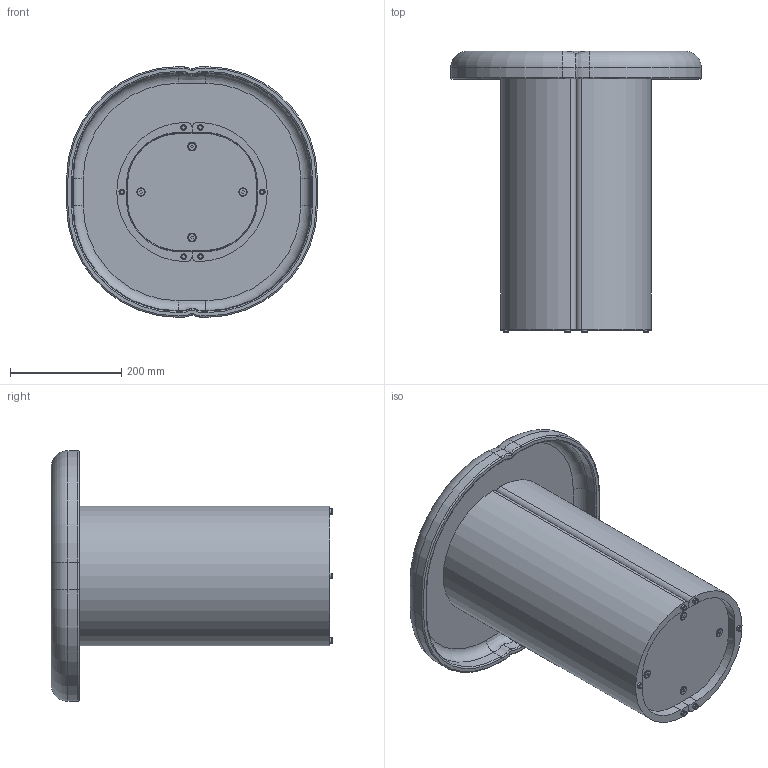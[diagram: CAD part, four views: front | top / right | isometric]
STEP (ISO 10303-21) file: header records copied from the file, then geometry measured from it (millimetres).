
FILE_DESCRIPTION (( 'STEP AP214' ), '1' );
FILE_NAME ('Mater_Alder_Side_Table.STEP', '2024-03-05T08:02:53', ( '' ), ( '' ), 'SwSTEP 2.0', 'SolidWorks 2023', '' );
FILE_SCHEMA (( 'AUTOMOTIVE_DESIGN' ));
Length unit declared in the file: millimetre
Products named in the file (1): Mater_Alder_Side_Table
Bounding box: 450 x 505 x 450 mm (x, y, z)
Volume: 8452952.7 mm3; surface area: 1446796.4 mm2
Topology: 52 solids, 52 shells, 1677 faces, 4467 edges, 2865 vertices
Faces by surface type: cylinder 658, cone 464, plane 305, bspline 166, torus 84
Entity records: 98415 total; most frequent: CARTESIAN_POINT 57976, ORIENTED_EDGE 8830, DIRECTION 7769, EDGE_CURVE 4415, AXIS2_PLACEMENT_3D 3080, VERTEX_POINT 2865, EDGE_LOOP 1804, ADVANCED_FACE 1677
